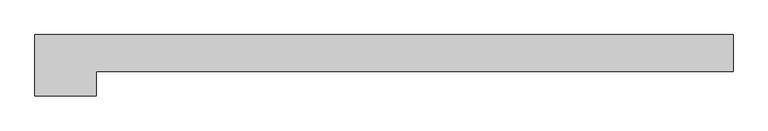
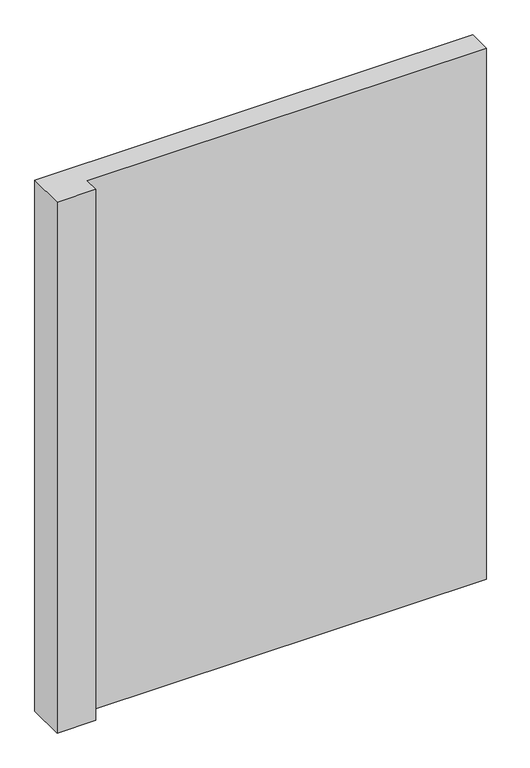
"""IFC4 building model written with IfcOpenShell, lengths in millimetres: column geometry, Columna Estructural Ele : ECO_Ele 25x285x25."""

from ifc_helpers import new_model, si_unit, frame, origin, place, context, project, spatial, polyline, outline, extrude, source, transform, mapped, element, save


def column_7e1b7639(model_context):
    return source(origin(), model_context, "Body", "SweptSolid", [
        extrude(outline(polyline([(125.0, -175.0), (-125.0, -175.0), (-125.0, 75.0), (2725.0, 75.0), (2725.0, -75.0), (125.0, -75.0), (125.0, -175.0)])), frame((0.0, 0.0, -900.0), z_axis=(0.0, 0.0, 1.0), x_axis=(1.0, 0.0, 0.0)), (0.0, 0.0, 1.0), 3650.0),
    ])


if __name__ == "__main__":
    model = new_model("IFC4")
    model_context = context("Model", 3, world=origin())
    ifc_project = project(units=[si_unit("LENGTHUNIT", "METRE", prefix="MILLI")], contexts=[model_context])
    site = spatial("IfcSite", under=ifc_project)
    building = spatial("IfcBuilding", under=site)
    placement = place(None, origin())
    column_shape = column_7e1b7639(model_context)
    element("IfcColumn", 1, ObjectType="Columna Estructural Ele : ECO_Ele 25x285x25", at=placement, inside=building, context=model_context, shape_type="MappedRepresentation", body=[
        mapped(column_shape, transform((0.0, 0.0, 0.0), x_axis=(1.0, 0.0, 0.0), y_axis=(0.0, 1.0, 0.0), z_axis=(0.0, 0.0, 1.0))),
    ])
    save(model, "model.ifc")
